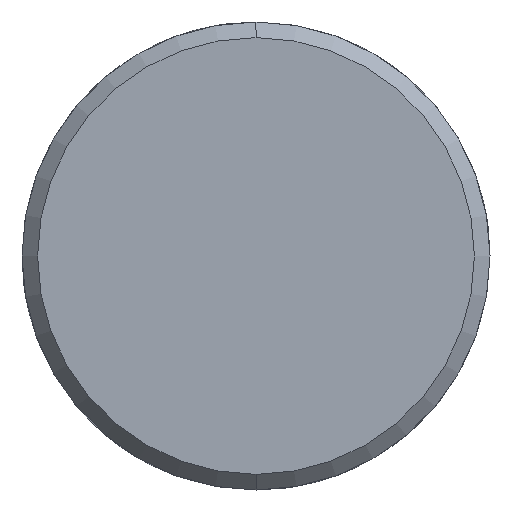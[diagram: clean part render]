
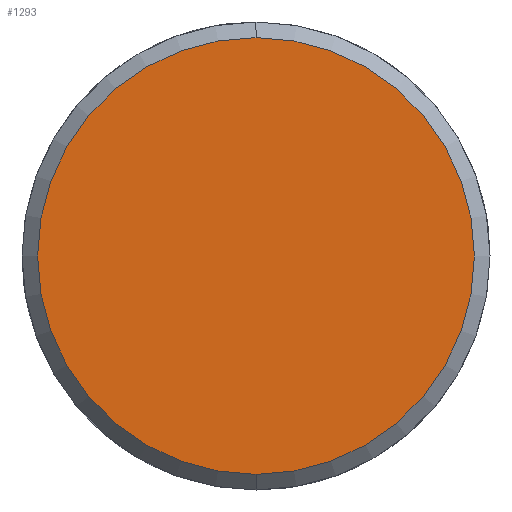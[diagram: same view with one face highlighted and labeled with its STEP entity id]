
A CAD part, left-side view. The second image highlights one B-rep face of the part: STEP entity #1293.
In plain terms, the highlighted planar face has unit normal (-1, 0, 0).
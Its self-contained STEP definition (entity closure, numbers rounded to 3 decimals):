
#1225=CARTESIAN_POINT('Vertex',(-5.,0.,-14.)) ;
#1228=CARTESIAN_POINT('Axis2P3D Location',(-5.,0.,0.)) ;
#1232=CARTESIAN_POINT('Vertex',(-5.,14.,0.)) ;
#1235=CARTESIAN_POINT('Axis2P3D Location',(-5.,0.,0.)) ;
#1239=CARTESIAN_POINT('Vertex',(-5.,0.,14.)) ;
#1261=CARTESIAN_POINT('Axis2P3D Location',(-5.,0.,0.)) ;
#1265=CARTESIAN_POINT('Vertex',(-5.,-14.,0.)) ;
#1268=CARTESIAN_POINT('Axis2P3D Location',(-5.,0.,0.)) ;
#1282=CARTESIAN_POINT('Axis2P3D Location',(-5.,0.,0.)) ;
#1229=DIRECTION('Axis2P3D Direction',(1.,0.,-0.)) ;
#1236=DIRECTION('Axis2P3D Direction',(1.,0.,-0.)) ;
#1262=DIRECTION('Axis2P3D Direction',(1.,0.,-0.)) ;
#1269=DIRECTION('Axis2P3D Direction',(1.,0.,-0.)) ;
#1283=DIRECTION('Axis2P3D Direction',(1.,0.,-0.)) ;
#1284=DIRECTION('Axis2P3D XDirection',(-0.,0.,-1.)) ;
#1230=AXIS2_PLACEMENT_3D('Circle Axis2P3D',#1228,#1229,$) ;
#1237=AXIS2_PLACEMENT_3D('Circle Axis2P3D',#1235,#1236,$) ;
#1263=AXIS2_PLACEMENT_3D('Circle Axis2P3D',#1261,#1262,$) ;
#1270=AXIS2_PLACEMENT_3D('Circle Axis2P3D',#1268,#1269,$) ;
#1285=AXIS2_PLACEMENT_3D('Plane Axis2P3D',#1282,#1283,#1284) ;
#1288=ORIENTED_EDGE('',*,*,#1234,.F.) ;
#1289=ORIENTED_EDGE('',*,*,#1272,.F.) ;
#1290=ORIENTED_EDGE('',*,*,#1267,.F.) ;
#1291=ORIENTED_EDGE('',*,*,#1241,.F.) ;
#1293=ADVANCED_FACE('351-18X26X90',(#1292),#1286,.F.) ;
#1231=CIRCLE('generated circle',#1230,14.) ;
#1238=CIRCLE('generated circle',#1237,14.) ;
#1264=CIRCLE('generated circle',#1263,14.) ;
#1271=CIRCLE('generated circle',#1270,14.) ;
#1234=EDGE_CURVE('',#1226,#1233,#1231,.T.) ;
#1241=EDGE_CURVE('',#1233,#1240,#1238,.T.) ;
#1267=EDGE_CURVE('',#1240,#1266,#1264,.T.) ;
#1272=EDGE_CURVE('',#1266,#1226,#1271,.T.) ;
#1287=EDGE_LOOP('',(#1288,#1289,#1290,#1291)) ;
#1292=FACE_OUTER_BOUND('',#1287,.T.) ;
#1286=PLANE('Plane',#1285) ;
#1226=VERTEX_POINT('',#1225) ;
#1233=VERTEX_POINT('',#1232) ;
#1240=VERTEX_POINT('',#1239) ;
#1266=VERTEX_POINT('',#1265) ;
